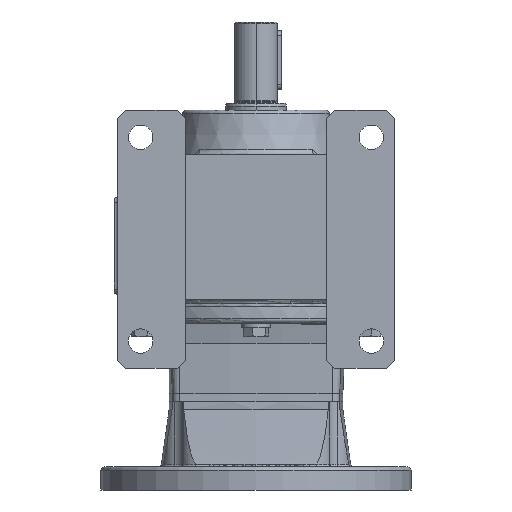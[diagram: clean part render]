
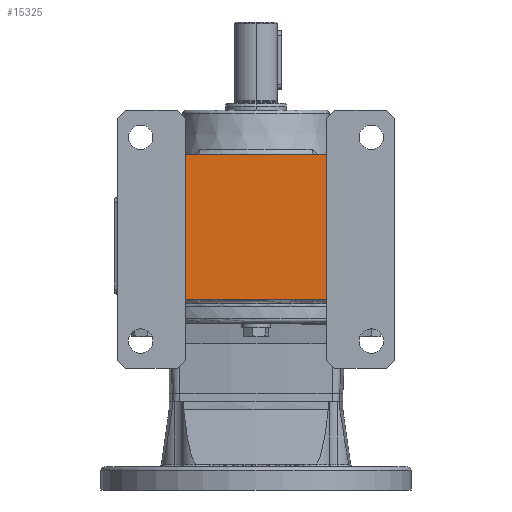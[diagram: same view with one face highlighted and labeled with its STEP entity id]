
A CAD part, front view. The second image highlights one B-rep face of the part: STEP entity #15325.
In plain terms, the highlighted planar face has unit normal (0, -1, 0).
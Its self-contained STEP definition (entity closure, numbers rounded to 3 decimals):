
#27 = ORIENTED_EDGE ( 'NONE', *, *, #12116, .T. ) ;
#29 = ORIENTED_EDGE ( 'NONE', *, *, #12117, .T. ) ;
#30 = ORIENTED_EDGE ( 'NONE', *, *, #12115, .F. ) ;
#31 = ORIENTED_EDGE ( 'NONE', *, *, #12118, .F. ) ;
#12115 = EDGE_CURVE ( 'NONE', #75613, #75612, #38655, .T. ) ;
#12116 = EDGE_CURVE ( 'NONE', #75611, #75612, #38658, .T. ) ;
#12117 = EDGE_CURVE ( 'NONE', #75613, #75615, #38661, .T. ) ;
#12118 = EDGE_CURVE ( 'NONE', #75611, #75615, #38664, .T. ) ;
#15325 = ADVANCED_FACE ( 'NONE', ( #65239 ), #22934, .F. ) ;
#22934 = PLANE ( 'NONE',  #65237 ) ;
#22935 = CARTESIAN_POINT ( 'NONE',  ( -114.086, -87., -112. ) ) ;
#22936 = DIRECTION ( 'NONE',  ( 0., 1., 0. ) ) ;
#22937 = DIRECTION ( 'NONE',  ( 0., 0., 1. ) ) ;
#38655 = LINE ( 'NONE', #38656, #42496 ) ;
#38656 = CARTESIAN_POINT ( 'NONE',  ( 52., -87., -22. ) ) ;
#38657 = DIRECTION ( 'NONE',  ( 0., 0., -1. ) ) ;
#38658 = LINE ( 'NONE', #38659, #42499 ) ;
#38659 = CARTESIAN_POINT ( 'NONE',  ( -102., -87., -107. ) ) ;
#38660 = DIRECTION ( 'NONE',  ( 1., 0., 0. ) ) ;
#38661 = LINE ( 'NONE', #38662, #42503 ) ;
#38662 = CARTESIAN_POINT ( 'NONE',  ( -114.086, -87., 0. ) ) ;
#38663 = DIRECTION ( 'NONE',  ( -1., 0., 0. ) ) ;
#38664 = LINE ( 'NONE', #38665, #42506 ) ;
#38665 = CARTESIAN_POINT ( 'NONE',  ( -52., -87., -22. ) ) ;
#38666 = DIRECTION ( 'NONE',  ( 0., 0., 1. ) ) ;
#42496 = VECTOR ( 'NONE', #38657, 1000. ) ;
#42499 = VECTOR ( 'NONE', #38660, 1000. ) ;
#42503 = VECTOR ( 'NONE', #38663, 1000. ) ;
#42506 = VECTOR ( 'NONE', #38666, 1000. ) ;
#53449 = CARTESIAN_POINT ( 'NONE',  ( -52., -87., -107. ) ) ;
#53450 = CARTESIAN_POINT ( 'NONE',  ( 52., -87., -107. ) ) ;
#53451 = CARTESIAN_POINT ( 'NONE',  ( 52., -87., 0. ) ) ;
#53453 = CARTESIAN_POINT ( 'NONE',  ( -52., -87., 0. ) ) ;
#55193 = EDGE_LOOP ( 'NONE', ( #27, #30, #29, #31 ) ) ;
#65237 = AXIS2_PLACEMENT_3D ( 'NONE', #22935, #22936, #22937 ) ;
#65239 = FACE_OUTER_BOUND ( 'NONE', #55193, .T. ) ;
#75611 = VERTEX_POINT ( 'NONE', #53449 ) ;
#75612 = VERTEX_POINT ( 'NONE', #53450 ) ;
#75613 = VERTEX_POINT ( 'NONE', #53451 ) ;
#75615 = VERTEX_POINT ( 'NONE', #53453 ) ;
